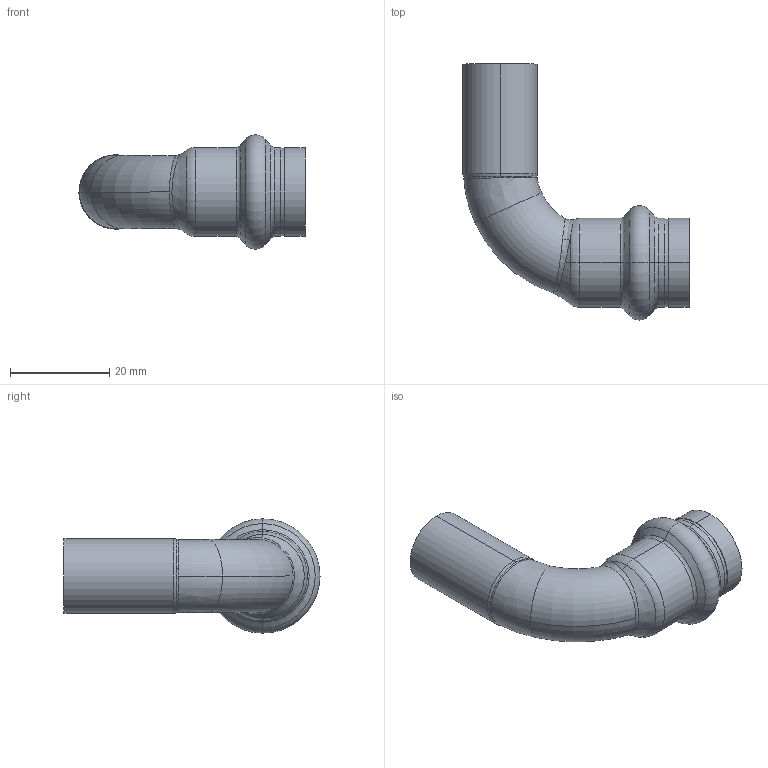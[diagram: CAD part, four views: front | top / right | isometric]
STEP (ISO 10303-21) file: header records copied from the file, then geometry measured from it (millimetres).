
FILE_DESCRIPTION (( 'STEP AP203' ), '1' );
FILE_NAME ('SP5001 Ø15.STEP', '2017-04-24T07:55:46', ( '' ), ( '' ), 'SwSTEP 2.0', 'SolidWorks 2016', '' );
FILE_SCHEMA (( 'CONFIG_CONTROL_DESIGN' ));
Length unit declared in the file: millimetre
Products named in the file (1): SP5001 ﾘ15
Bounding box: 45.5 x 51.5 x 23 mm (x, y, z)
Volume: 4929.9 mm3; surface area: 6893.2 mm2
Topology: 1 solids, 1 shells, 68 faces, 150 edges, 86 vertices
Faces by surface type: torus 24, cylinder 16, cone 13, bspline 10, plane 5
Entity records: 3518 total; most frequent: CARTESIAN_POINT 1980, DIRECTION 322, ORIENTED_EDGE 300, EDGE_CURVE 150, AXIS2_PLACEMENT_3D 147, CIRCLE 88, VERTEX_POINT 86, EDGE_LOOP 72
